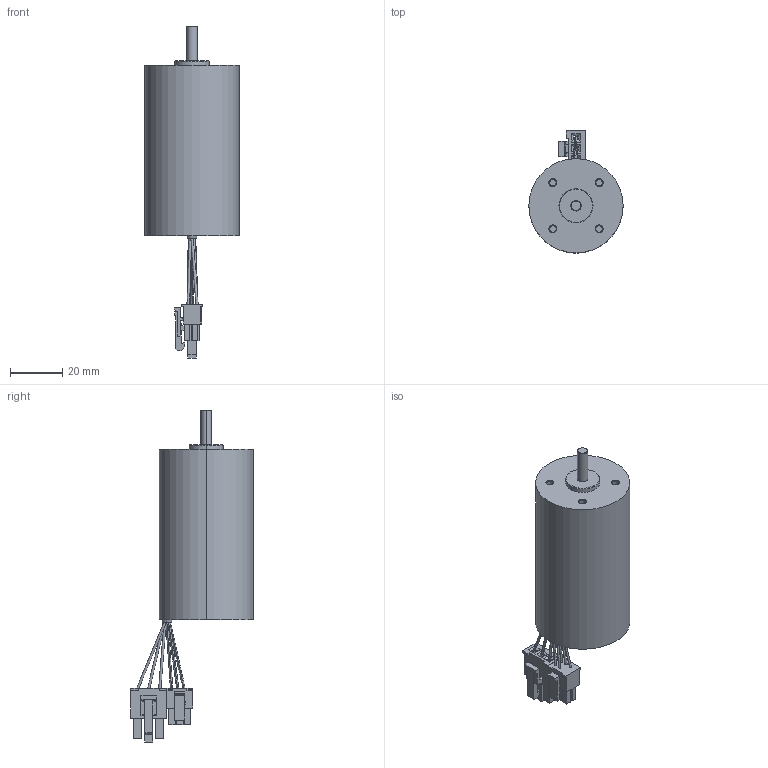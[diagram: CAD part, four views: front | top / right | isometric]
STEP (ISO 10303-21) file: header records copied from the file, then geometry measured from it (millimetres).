
FILE_DESCRIPTION (( 'STEP AP203' ), '1' );
FILE_NAME ('R36BLB28L2(-A).STEP', '2018-05-31T08:17:56', ( 'User' ), ( 'China' ), 'SwSTEP 2.0', 'SolidWorks 2012', '' );
FILE_SCHEMA (( 'CONFIG_CONTROL_DESIGN' ));
Length unit declared in the file: millimetre
Products named in the file (1): R36BLB28L2(-A)
Bounding box: 36 x 46.8 x 126.8 mm (x, y, z)
Surface area: 13021.1 mm2 (no closed solid volume)
Topology: 0 solids, 6 shells, 328 faces, 1016 edges, 681 vertices
Faces by surface type: plane 264, cylinder 34, bspline 16, cone 14
Entity records: 11295 total; most frequent: CARTESIAN_POINT 2291, ORIENTED_EDGE 1760, DIRECTION 1759, EDGE_CURVE 1016, VECTOR 881, LINE 881, VERTEX_POINT 681, AXIS2_PLACEMENT_3D 439
